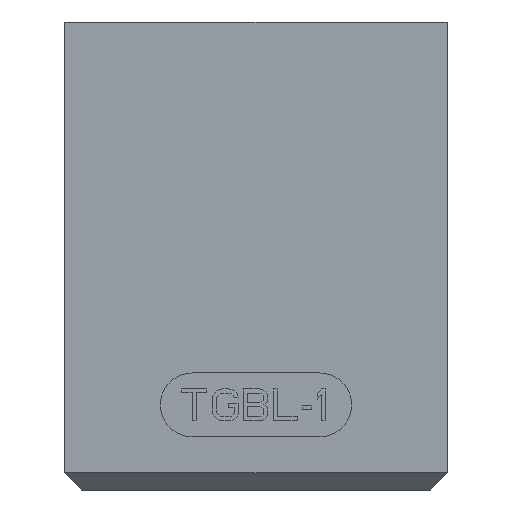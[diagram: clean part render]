
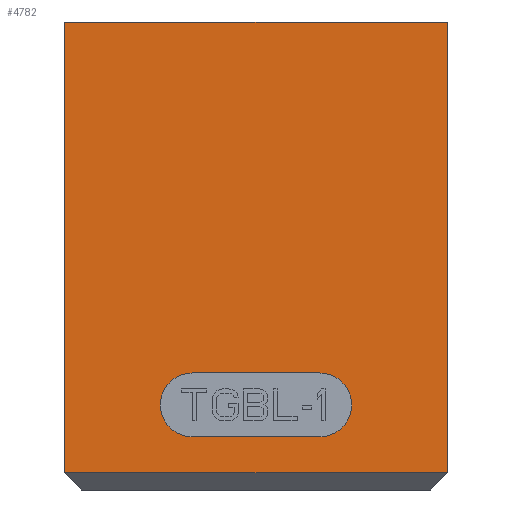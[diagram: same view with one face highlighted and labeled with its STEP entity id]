
A CAD part, front view. The second image highlights one B-rep face of the part: STEP entity #4782.
In plain terms, the highlighted planar face has unit normal (0, -1, 0).
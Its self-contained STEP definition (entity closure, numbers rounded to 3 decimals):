
#91=DIRECTION('',(0.,0.,1.));
#92=VECTOR('',#91,21.2);
#93=CARTESIAN_POINT('',(13.5,-4.,-18.2));
#94=LINE('',#93,#92);
#185=DIRECTION('',(1.,0.,0.));
#186=VECTOR('',#185,18.);
#187=CARTESIAN_POINT('',(-4.5,-4.,3.));
#188=LINE('',#187,#186);
#243=DIRECTION('',(-1.,0.,0.));
#244=VECTOR('',#243,18.);
#245=CARTESIAN_POINT('',(13.5,-4.,-18.2));
#246=LINE('',#245,#244);
#250=DIRECTION('',(0.,0.,1.));
#251=VECTOR('',#250,21.2);
#252=CARTESIAN_POINT('',(-4.5,-4.,-18.2));
#253=LINE('',#252,#251);
#257=CARTESIAN_POINT('',(1.5,-4.,-15.));
#258=DIRECTION('',(0.,-1.,0.));
#259=DIRECTION('',(0.,0.,1.));
#260=AXIS2_PLACEMENT_3D('',#257,#258,#259);
#265=DIRECTION('',(1.,0.,0.));
#266=VECTOR('',#265,6.);
#267=CARTESIAN_POINT('',(1.5,-4.,-16.5));
#268=LINE('',#267,#266);
#272=CARTESIAN_POINT('',(7.5,-4.,-15.));
#273=DIRECTION('',(0.,-1.,0.));
#274=DIRECTION('',(0.,0.,-1.));
#275=AXIS2_PLACEMENT_3D('',#272,#273,#274);
#280=DIRECTION('',(-1.,0.,0.));
#281=VECTOR('',#280,6.);
#282=CARTESIAN_POINT('',(7.5,-4.,-13.5));
#283=LINE('',#282,#281);
#4009=CARTESIAN_POINT('',(-4.5,-4.,3.));
#4011=VERTEX_POINT('',#4009);
#4012=CARTESIAN_POINT('',(13.5,-4.,3.));
#4013=VERTEX_POINT('',#4012);
#4046=CARTESIAN_POINT('',(-4.5,-4.,-18.2));
#4047=VERTEX_POINT('',#4046);
#4052=CARTESIAN_POINT('',(13.5,-4.,-18.2));
#4053=VERTEX_POINT('',#4052);
#4084=CARTESIAN_POINT('',(1.5,-4.,-13.5));
#4085=CARTESIAN_POINT('',(1.5,-4.,-16.5));
#4086=VERTEX_POINT('',#4084);
#4087=VERTEX_POINT('',#4085);
#4088=CARTESIAN_POINT('',(7.5,-4.,-16.5));
#4089=VERTEX_POINT('',#4088);
#4090=CARTESIAN_POINT('',(7.5,-4.,-13.5));
#4091=VERTEX_POINT('',#4090);
#4760=CARTESIAN_POINT('',(-4.5,-4.,-19.));
#4761=DIRECTION('',(0.,-1.,0.));
#4762=DIRECTION('',(1.,0.,0.));
#4763=AXIS2_PLACEMENT_3D('',#4760,#4761,#4762);
#4764=PLANE('',#4763);
#4766=ORIENTED_EDGE('',*,*,#4765,.T.);
#4767=ORIENTED_EDGE('',*,*,#4733,.T.);
#4768=ORIENTED_EDGE('',*,*,#4744,.T.);
#4769=ORIENTED_EDGE('',*,*,#4664,.F.);
#4770=EDGE_LOOP('',(#4766,#4767,#4768,#4769));
#4771=FACE_OUTER_BOUND('',#4770,.F.);
#4773=ORIENTED_EDGE('',*,*,#4772,.T.);
#4775=ORIENTED_EDGE('',*,*,#4774,.T.);
#4777=ORIENTED_EDGE('',*,*,#4776,.T.);
#4779=ORIENTED_EDGE('',*,*,#4778,.T.);
#4780=EDGE_LOOP('',(#4773,#4775,#4777,#4779));
#4781=FACE_BOUND('',#4780,.F.);
#261=CIRCLE('',#260,1.5);
#276=CIRCLE('',#275,1.5);
#4664=EDGE_CURVE('',#4053,#4013,#94,.T.);
#4733=EDGE_CURVE('',#4047,#4011,#253,.T.);
#4744=EDGE_CURVE('',#4011,#4013,#188,.T.);
#4765=EDGE_CURVE('',#4053,#4047,#246,.T.);
#4772=EDGE_CURVE('',#4086,#4087,#261,.T.);
#4774=EDGE_CURVE('',#4087,#4089,#268,.T.);
#4776=EDGE_CURVE('',#4089,#4091,#276,.T.);
#4778=EDGE_CURVE('',#4091,#4086,#283,.T.);
#4782=ADVANCED_FACE('',(#4771,#4781),#4764,.T.);
